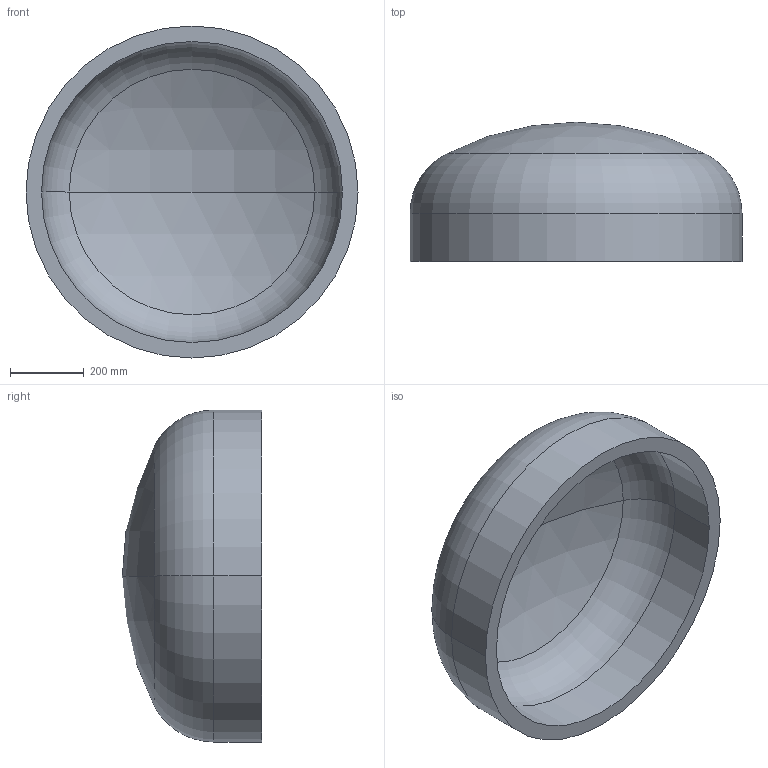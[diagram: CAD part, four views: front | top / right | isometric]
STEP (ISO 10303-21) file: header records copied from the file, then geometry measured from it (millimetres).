
FILE_DESCRIPTION (( 'STEP AP203' ), '1' );
FILE_NAME ('DIN 28013 Korbbogenform_-_Boden DIN 28013 - 900 x 130 - I - s=42.step', '2016-07-01T08:31:39', ( '' ), ( '' ), 'SwSTEP 2.0', 'SolidWorks 2013', '' );
FILE_SCHEMA (( 'CONFIG_CONTROL_DESIGN' ));
Length unit declared in the file: millimetre
Products named in the file (1): DIN 28013 Korbbogenform_-_Boden DIN 28013 - 900 x 130 - I - s=42
Bounding box: 900 x 377.63 x 900 mm (x, y, z)
Volume: 49635313.6 mm3; surface area: 2480490.8 mm2
Topology: 1 solids, 1 shells, 13 faces, 24 edges, 14 vertices
Faces by surface type: torus 4, cylinder 4, sphere 4, plane 1
Entity records: 407 total; most frequent: DIRECTION 72, CARTESIAN_POINT 52, ORIENTED_EDGE 48, AXIS2_PLACEMENT_3D 34, EDGE_CURVE 24, CIRCLE 20, VERTEX_POINT 14, EDGE_LOOP 14
